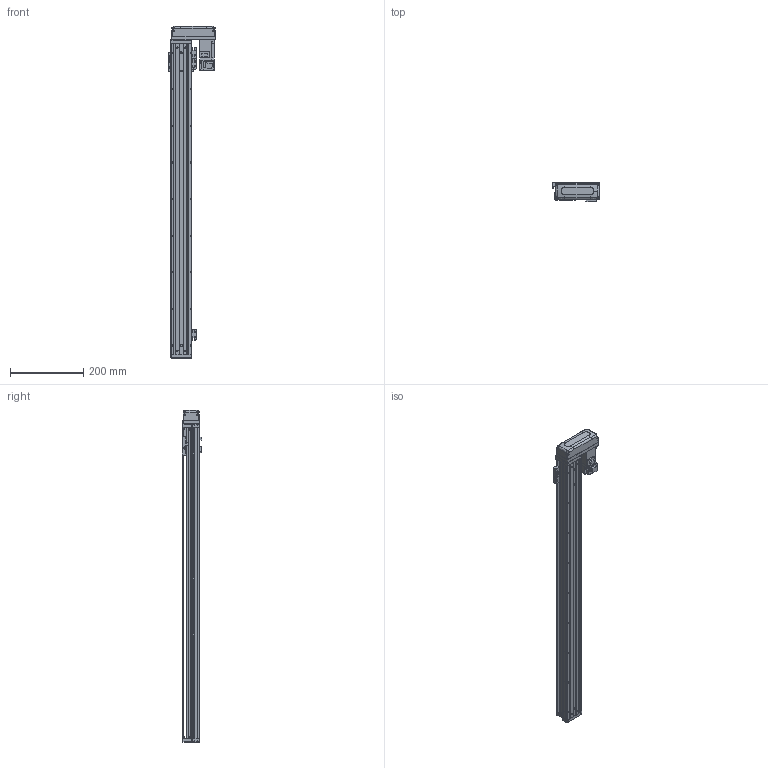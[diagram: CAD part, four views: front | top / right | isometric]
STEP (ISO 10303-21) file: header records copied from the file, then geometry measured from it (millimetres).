
FILE_DESCRIPTION (( 'STEP AP203' ), '1' );
FILE_NAME ('KTHA50-750-BL-M10-C4L.step', '2022-03-19T07:07:46', ( '微软用户' ), ( '微软中国' ), 'SwSTEP 2.0', 'SolidWorks 2020', '' );
FILE_SCHEMA (( 'CONFIG_CONTROL_DESIGN' ));
Length unit declared in the file: millimetre
Products named in the file (18): KTHA50-001_850; GBT 70.1-M3℅6; CTHA50-015-2_CTHA60-015-2; KTHA50-002; CTHA60-017; CTHA60-033; KTHA50-004; GBT 70.1-M4×12; GBT 70.1-M3×15; KTHA50-750-BL-M10-C4L; KTHA50-005; CTHA60-016; GB¨uT 70.2-M3¡Á6_M3¡Á6; CTHA60-021; EE_SX911P_R; GBT 70.3-M3℅6; GBT77-2000 M3×3; HG-KR13（三菱）
Assembly tree (53 placements, depth 2):
  KTHA50-750-BL-M10-C4L
    KTHA50-001_850
    KTHA50-002
    KTHA50-004
    KTHA50-005
    GB¨uT 70.2-M3¡Á6_M3¡Á6  x6
    EE_SX911P_R  x3
    GBT77-2000 M3×3  x6
    GBT 70.1-M3℅6  x6
    CTHA60-017  x3
    GBT 70.1-M4×12  x10
    CTHA60-016  x2
    CTHA60-021  x2
    GBT 70.3-M3℅6  x4
    HG-KR13（三菱）
    CTHA50-015-2_CTHA60-015-2
    CTHA60-033
    GBT 70.1-M3×15  x4
Bounding box: 128.4 x 53.3 x 907 mm (x, y, z)
Volume: 1737892.7 mm3; surface area: 424651 mm2
Topology: 56 solids, 56 shells, 2323 faces, 5519 edges, 3388 vertices
Faces by surface type: plane 1300, cylinder 568, cone 313, torus 100, bspline 26, sphere 16
Entity records: 40173 total; most frequent: CARTESIAN_POINT 7570, DIRECTION 6295, ORIENTED_EDGE 6050, EDGE_CURVE 3025, AXIS2_PLACEMENT_3D 2129, VECTOR 2037, LINE 2037, VERTEX_POINT 1902
